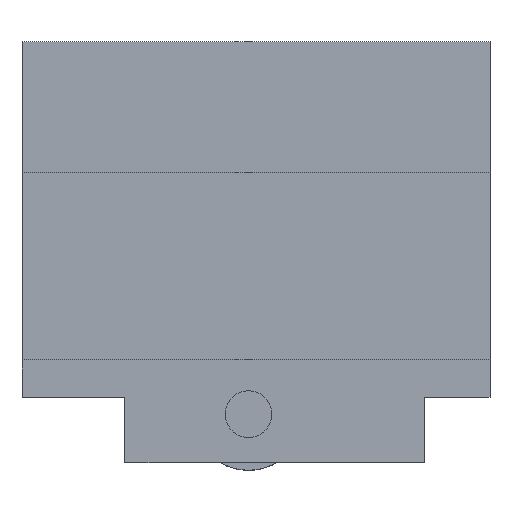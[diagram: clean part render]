
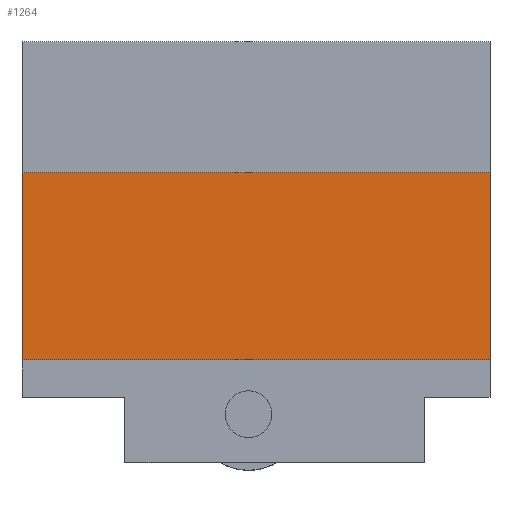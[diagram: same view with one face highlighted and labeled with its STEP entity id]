
A CAD part, front view. The second image highlights one B-rep face of the part: STEP entity #1264.
In plain terms, the highlighted planar face has unit normal (0, -1, 0).
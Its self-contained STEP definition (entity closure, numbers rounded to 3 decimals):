
#36 = LINE ( 'NONE', #274, #1150 ) ;
#139 = EDGE_CURVE ( 'NONE', #2408, #3374, #3606, .T. ) ;
#140 = DIRECTION ( 'NONE',  ( 1., 0., 0. ) ) ;
#210 = PLANE ( 'NONE',  #2826 ) ;
#274 = CARTESIAN_POINT ( 'NONE',  ( 3.5, 0.5, 12. ) ) ;
#777 = EDGE_CURVE ( 'NONE', #3374, #2484, #3246, .T. ) ;
#812 = DIRECTION ( 'NONE',  ( 0., 0., -1. ) ) ;
#1000 = ORIENTED_EDGE ( 'NONE', *, *, #139, .T. ) ;
#1150 = VECTOR ( 'NONE', #2204, 1000. ) ;
#1202 = VECTOR ( 'NONE', #140, 1000. ) ;
#1253 = VECTOR ( 'NONE', #812, 1000. ) ;
#1264 = ADVANCED_FACE ( 'NONE', ( #2972 ), #210, .T. ) ;
#1269 = DIRECTION ( 'NONE',  ( 0., -1., 0. ) ) ;
#1340 = ORIENTED_EDGE ( 'NONE', *, *, #777, .T. ) ;
#1366 = EDGE_CURVE ( 'NONE', #1840, #2484, #36, .T. ) ;
#1641 = CARTESIAN_POINT ( 'NONE',  ( -21.5, 0.5, 12. ) ) ;
#1757 = ORIENTED_EDGE ( 'NONE', *, *, #1366, .F. ) ;
#1766 = ORIENTED_EDGE ( 'NONE', *, *, #3463, .F. ) ;
#1798 = CARTESIAN_POINT ( 'NONE',  ( -21.5, 0.5, 2. ) ) ;
#1840 = VERTEX_POINT ( 'NONE', #2070 ) ;
#1909 = CARTESIAN_POINT ( 'NONE',  ( -21.5, 0.5, 12. ) ) ;
#2070 = CARTESIAN_POINT ( 'NONE',  ( 3.5, 0.5, 12. ) ) ;
#2103 = EDGE_LOOP ( 'NONE', ( #1757, #1766, #1000, #1340 ) ) ;
#2204 = DIRECTION ( 'NONE',  ( 0., 0., -1. ) ) ;
#2302 = CARTESIAN_POINT ( 'NONE',  ( -21.5, 0.5, 12. ) ) ;
#2408 = VERTEX_POINT ( 'NONE', #2302 ) ;
#2484 = VERTEX_POINT ( 'NONE', #3512 ) ;
#2652 = VECTOR ( 'NONE', #3324, 1000. ) ;
#2826 = AXIS2_PLACEMENT_3D ( 'NONE', #2936, #1269, #3527 ) ;
#2936 = CARTESIAN_POINT ( 'NONE',  ( -24., 0.5, 13. ) ) ;
#2972 = FACE_OUTER_BOUND ( 'NONE', #2103, .T. ) ;
#3139 = LINE ( 'NONE', #1641, #2652 ) ;
#3246 = LINE ( 'NONE', #1798, #1202 ) ;
#3324 = DIRECTION ( 'NONE',  ( 1., 0., 0. ) ) ;
#3374 = VERTEX_POINT ( 'NONE', #3531 ) ;
#3463 = EDGE_CURVE ( 'NONE', #2408, #1840, #3139, .T. ) ;
#3512 = CARTESIAN_POINT ( 'NONE',  ( 3.5, 0.5, 2. ) ) ;
#3527 = DIRECTION ( 'NONE',  ( 0., 0., -1. ) ) ;
#3531 = CARTESIAN_POINT ( 'NONE',  ( -21.5, 0.5, 2. ) ) ;
#3606 = LINE ( 'NONE', #1909, #1253 ) ;
